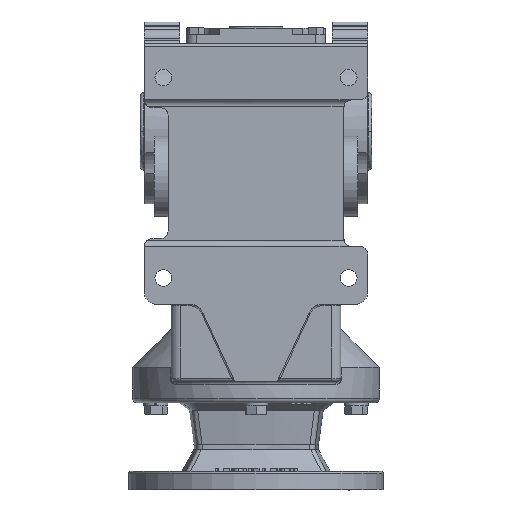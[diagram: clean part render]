
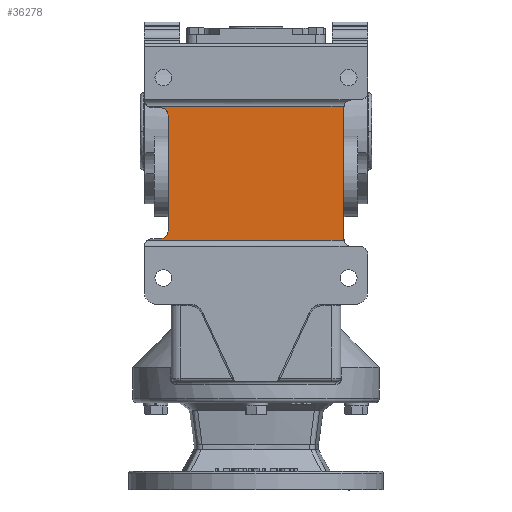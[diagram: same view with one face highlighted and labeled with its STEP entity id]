
A CAD part, front view. The second image highlights one B-rep face of the part: STEP entity #36278.
In plain terms, the highlighted planar face has unit normal (0, -1, 0).
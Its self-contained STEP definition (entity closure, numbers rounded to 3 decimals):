
#5697 = VERTEX_POINT ( 'NONE', #24119 ) ;
#5701 = VERTEX_POINT ( 'NONE', #24123 ) ;
#5707 = VERTEX_POINT ( 'NONE', #24129 ) ;
#5710 = VERTEX_POINT ( 'NONE', #24132 ) ;
#5711 = VERTEX_POINT ( 'NONE', #24133 ) ;
#5714 = VERTEX_POINT ( 'NONE', #24136 ) ;
#5716 = VERTEX_POINT ( 'NONE', #24138 ) ;
#5835 = VERTEX_POINT ( 'NONE', #24256 ) ;
#5839 = VERTEX_POINT ( 'NONE', #24260 ) ;
#5843 = VERTEX_POINT ( 'NONE', #24264 ) ;
#5845 = VERTEX_POINT ( 'NONE', #24266 ) ;
#5850 = VERTEX_POINT ( 'NONE', #24271 ) ;
#6164 = EDGE_LOOP ( 'NONE', ( #7465, #7467, #7468, #7470, #7471, #7473, #7475, #7476, #7478, #7479, #7481, #7482 ) ) ;
#6606 = EDGE_CURVE ( 'NONE', #5697, #5707, #25564, .T. ) ;
#6607 = EDGE_CURVE ( 'NONE', #5697, #5701, #25569, .T. ) ;
#6610 = EDGE_CURVE ( 'NONE', #5710, #5701, #25571, .T. ) ;
#6613 = EDGE_CURVE ( 'NONE', #5714, #5710, #25578, .T. ) ;
#6616 = EDGE_CURVE ( 'NONE', #5716, #5714, #25584, .T. ) ;
#6618 = EDGE_CURVE ( 'NONE', #5716, #5711, #25586, .T. ) ;
#7465 = ORIENTED_EDGE ( 'NONE', *, *, #8401, .T. ) ;
#7467 = ORIENTED_EDGE ( 'NONE', *, *, #8402, .T. ) ;
#7468 = ORIENTED_EDGE ( 'NONE', *, *, #8403, .F. ) ;
#7470 = ORIENTED_EDGE ( 'NONE', *, *, #8404, .T. ) ;
#7471 = ORIENTED_EDGE ( 'NONE', *, *, #6618, .F. ) ;
#7473 = ORIENTED_EDGE ( 'NONE', *, *, #6616, .T. ) ;
#7475 = ORIENTED_EDGE ( 'NONE', *, *, #6613, .T. ) ;
#7476 = ORIENTED_EDGE ( 'NONE', *, *, #6610, .T. ) ;
#7478 = ORIENTED_EDGE ( 'NONE', *, *, #6607, .F. ) ;
#7479 = ORIENTED_EDGE ( 'NONE', *, *, #6606, .T. ) ;
#7481 = ORIENTED_EDGE ( 'NONE', *, *, #8381, .F. ) ;
#7482 = ORIENTED_EDGE ( 'NONE', *, *, #8400, .T. ) ;
#8381 = EDGE_CURVE ( 'NONE', #5839, #5707, #25942, .T. ) ;
#8400 = EDGE_CURVE ( 'NONE', #5839, #5835, #25972, .T. ) ;
#8401 = EDGE_CURVE ( 'NONE', #5835, #5843, #25967, .T. ) ;
#8402 = EDGE_CURVE ( 'NONE', #5843, #5850, #25975, .T. ) ;
#8403 = EDGE_CURVE ( 'NONE', #5845, #5850, #25977, .T. ) ;
#8404 = EDGE_CURVE ( 'NONE', #5845, #5711, #25974, .T. ) ;
#19979 = AXIS2_PLACEMENT_3D ( 'NONE', #26843, #26844, #26845 ) ;
#19981 = AXIS2_PLACEMENT_3D ( 'NONE', #26868, #26869, #26870 ) ;
#19983 = AXIS2_PLACEMENT_3D ( 'NONE', #26881, #26882, #26883 ) ;
#20040 = AXIS2_PLACEMENT_3D ( 'NONE', #27848, #27849, #27850 ) ;
#20041 = AXIS2_PLACEMENT_3D ( 'NONE', #27852, #27853, #27854 ) ;
#20042 = AXIS2_PLACEMENT_3D ( 'NONE', #27858, #27859, #27860 ) ;
#24119 = CARTESIAN_POINT ( 'NONE',  ( 57.101, -107., -70.5 ) ) ;
#24123 = CARTESIAN_POINT ( 'NONE',  ( -70.5, -107., -70.5 ) ) ;
#24129 = CARTESIAN_POINT ( 'NONE',  ( 57., -107., -69.5 ) ) ;
#24132 = CARTESIAN_POINT ( 'NONE',  ( -67.5, -107., -69.5 ) ) ;
#24133 = CARTESIAN_POINT ( 'NONE',  ( -57., -107., 10.5 ) ) ;
#24136 = CARTESIAN_POINT ( 'NONE',  ( -62., -107., -69.5 ) ) ;
#24138 = CARTESIAN_POINT ( 'NONE',  ( -57., -107., -64.5 ) ) ;
#24256 = CARTESIAN_POINT ( 'NONE',  ( 57.101, -107., 16.5 ) ) ;
#24260 = CARTESIAN_POINT ( 'NONE',  ( 57., -107., 15.5 ) ) ;
#24264 = CARTESIAN_POINT ( 'NONE',  ( -70.5, -107., 16.5 ) ) ;
#24266 = CARTESIAN_POINT ( 'NONE',  ( -62., -107., 15.5 ) ) ;
#24271 = CARTESIAN_POINT ( 'NONE',  ( -67.5, -107., 15.5 ) ) ;
#25564 = CIRCLE ( 'NONE', #19979, 5. ) ;
#25569 = LINE ( 'NONE', #26842, #25573 ) ;
#25571 = CIRCLE ( 'NONE', #19981, 5. ) ;
#25573 = VECTOR ( 'NONE', #26839, 1000. ) ;
#25578 = LINE ( 'NONE', #26872, #25581 ) ;
#25581 = VECTOR ( 'NONE', #26873, 1000. ) ;
#25584 = CIRCLE ( 'NONE', #19983, 5. ) ;
#25586 = LINE ( 'NONE', #26884, #25589 ) ;
#25589 = VECTOR ( 'NONE', #26885, 1000. ) ;
#25942 = LINE ( 'NONE', #27775, #25944 ) ;
#25944 = VECTOR ( 'NONE', #27776, 1000. ) ;
#25967 = LINE ( 'NONE', #27820, #25976 ) ;
#25972 = CIRCLE ( 'NONE', #20040, 5. ) ;
#25974 = CIRCLE ( 'NONE', #20042, 5. ) ;
#25975 = CIRCLE ( 'NONE', #20041, 5. ) ;
#25976 = VECTOR ( 'NONE', #27825, 1000. ) ;
#25977 = LINE ( 'NONE', #27846, #25979 ) ;
#25979 = VECTOR ( 'NONE', #27847, 1000. ) ;
#26839 = DIRECTION ( 'NONE',  ( -1., 0., 0. ) ) ;
#26842 = CARTESIAN_POINT ( 'NONE',  ( 80., -107., -70.5 ) ) ;
#26843 = CARTESIAN_POINT ( 'NONE',  ( 62., -107., -69.5 ) ) ;
#26844 = DIRECTION ( 'NONE',  ( 0., 1., 0. ) ) ;
#26845 = DIRECTION ( 'NONE',  ( -1., 0., 0. ) ) ;
#26868 = CARTESIAN_POINT ( 'NONE',  ( -67.5, -107., -74.5 ) ) ;
#26869 = DIRECTION ( 'NONE',  ( 0., -1., 0. ) ) ;
#26870 = DIRECTION ( 'NONE',  ( -1., 0., 0. ) ) ;
#26872 = CARTESIAN_POINT ( 'NONE',  ( -57., -107., -69.5 ) ) ;
#26873 = DIRECTION ( 'NONE',  ( -1., 0., 0. ) ) ;
#26881 = CARTESIAN_POINT ( 'NONE',  ( -62., -107., -64.5 ) ) ;
#26882 = DIRECTION ( 'NONE',  ( 0., 1., 0. ) ) ;
#26883 = DIRECTION ( 'NONE',  ( -1., 0., 0. ) ) ;
#26884 = CARTESIAN_POINT ( 'NONE',  ( -57., -107., -69.5 ) ) ;
#26885 = DIRECTION ( 'NONE',  ( 0., 0., 1. ) ) ;
#27775 = CARTESIAN_POINT ( 'NONE',  ( 57., -107., 16.5 ) ) ;
#27776 = DIRECTION ( 'NONE',  ( 0., 0., -1. ) ) ;
#27820 = CARTESIAN_POINT ( 'NONE',  ( 80., -107., 16.5 ) ) ;
#27825 = DIRECTION ( 'NONE',  ( -1., 0., 0. ) ) ;
#27846 = CARTESIAN_POINT ( 'NONE',  ( -57., -107., 15.5 ) ) ;
#27847 = DIRECTION ( 'NONE',  ( -1., 0., 0. ) ) ;
#27848 = CARTESIAN_POINT ( 'NONE',  ( 62., -107., 15.5 ) ) ;
#27849 = DIRECTION ( 'NONE',  ( 0., 1., 0. ) ) ;
#27850 = DIRECTION ( 'NONE',  ( -1., 0., 0. ) ) ;
#27852 = CARTESIAN_POINT ( 'NONE',  ( -67.5, -107., 20.5 ) ) ;
#27853 = DIRECTION ( 'NONE',  ( 0., -1., 0. ) ) ;
#27854 = DIRECTION ( 'NONE',  ( -1., 0., 0. ) ) ;
#27858 = CARTESIAN_POINT ( 'NONE',  ( -62., -107., 10.5 ) ) ;
#27859 = DIRECTION ( 'NONE',  ( 0., 1., 0. ) ) ;
#27860 = DIRECTION ( 'NONE',  ( -1., 0., 0. ) ) ;
#30580 = FACE_OUTER_BOUND ( 'NONE', #6164, .T. ) ;
#32261 = AXIS2_PLACEMENT_3D ( 'NONE', #35066, #35072, #35073 ) ;
#35066 = CARTESIAN_POINT ( 'NONE',  ( 80., -107., -70.5 ) ) ;
#35070 = PLANE ( 'NONE',  #32261 ) ;
#35072 = DIRECTION ( 'NONE',  ( 0., 1., 0. ) ) ;
#35073 = DIRECTION ( 'NONE',  ( -1., 0., 0. ) ) ;
#36278 = ADVANCED_FACE ( 'NONE', ( #30580 ), #35070, .F. ) ;
